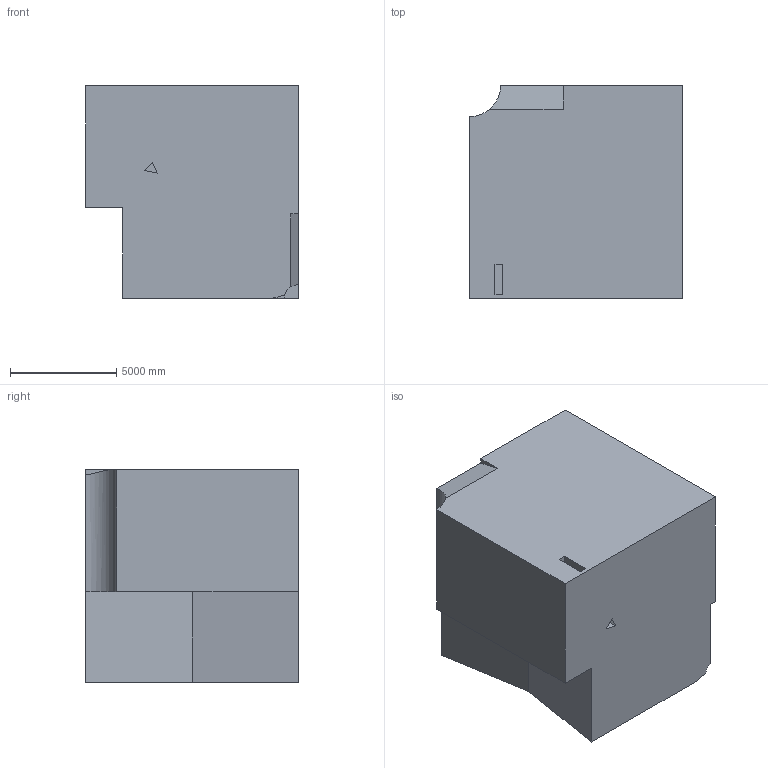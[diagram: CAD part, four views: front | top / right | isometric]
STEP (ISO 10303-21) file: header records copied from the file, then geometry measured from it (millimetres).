
FILE_DESCRIPTION (( 'STEP AP203' ), '1' );
FILE_NAME ('78.STEP', '2022-09-02T14:03:49', ( 'user' ), ( '' ), 'SwSTEP 2.0', 'SolidWorks 2021', '' );
FILE_SCHEMA (( 'CONFIG_CONTROL_DESIGN' ));
Length unit declared in the file: centimetre
Products named in the file (1): 78
Bounding box: 10000 x 10000 x 10000 mm (x, y, z)
Volume: 889324953253.8 mm3; surface area: 608779763 mm2
Topology: 1 solids, 1 shells, 27 faces, 69 edges, 46 vertices
Faces by surface type: plane 25, cylinder 2
Entity records: 885 total; most frequent: CARTESIAN_POINT 149, ORIENTED_EDGE 138, DIRECTION 128, EDGE_CURVE 69, VECTOR 62, LINE 62, VERTEX_POINT 46, AXIS2_PLACEMENT_3D 33
